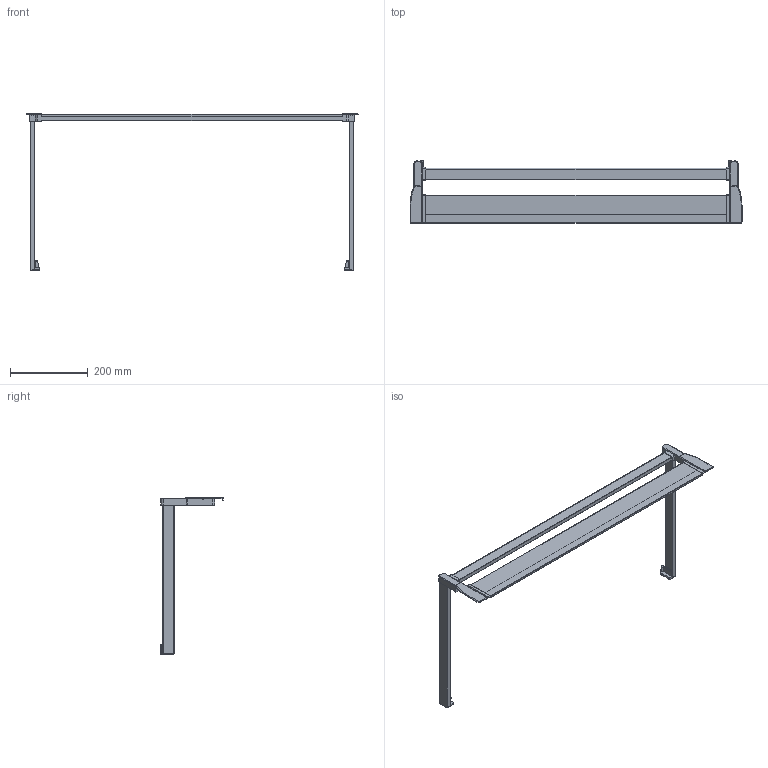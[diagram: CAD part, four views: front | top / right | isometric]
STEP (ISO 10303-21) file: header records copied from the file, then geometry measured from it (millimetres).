
FILE_DESCRIPTION (( 'STEP AP214' ), '1' );
FILE_NAME ('1_P620_NL 400_KAB 900_19er KS_.step', '2009-09-16T06:29:21', ( 'Waldinger Reinhard' ), ( 'Grass GmbH' ), 'SwSTEP 2.0', 'SolidWorks 2009', '' );
FILE_SCHEMA (( 'AUTOMOTIVE_DESIGN' ));
Length unit declared in the file: millimetre
Products named in the file (1): 1_P620_NL 400_KAB 900_19er KS_
Bounding box: 853.6 x 160.5 x 402.8 mm (x, y, z)
Volume: 1264494.3 mm3; surface area: 295100.6 mm2
Topology: 1 solids, 1 shells, 218 faces, 576 edges, 364 vertices
Faces by surface type: plane 97, cylinder 89, torus 28, sphere 2, bspline 2
Entity records: 6974 total; most frequent: CARTESIAN_POINT 1341, DIRECTION 1192, ORIENTED_EDGE 1148, EDGE_CURVE 574, AXIS2_PLACEMENT_3D 431, VERTEX_POINT 364, VECTOR 330, LINE 330
